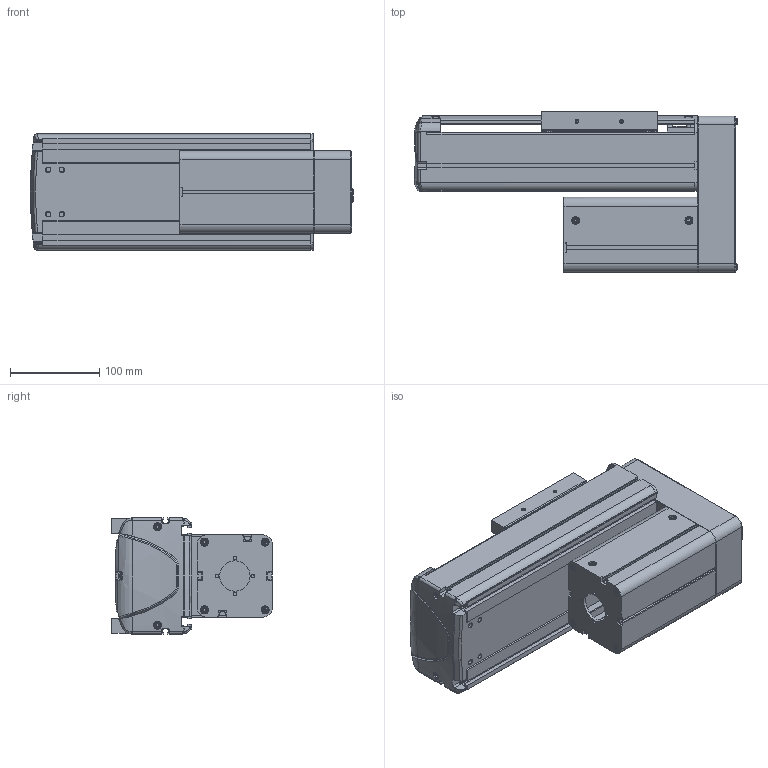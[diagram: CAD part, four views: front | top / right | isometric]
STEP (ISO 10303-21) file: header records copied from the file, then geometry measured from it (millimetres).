
FILE_DESCRIPTION((''),'2;1');
FILE_NAME('BE30E-UU-M_N-10_IGS_PRT','2017-06-17T',(' '),(''),'PRO/ENGINEER BY PARAMETRIC TECHNOLOGY CORPORATION, 2015030','PRO/ENGINEER BY PARAMETRIC TECHNOLOGY CORPORATION, 2015030','');
FILE_SCHEMA(('CONFIG_CONTROL_DESIGN'));
Length unit declared in the file: millimetre
Products named in the file (1): BE30E-UU-M_N-10_IGS_PRT
Bounding box: 361.9 x 180 x 130 mm (x, y, z)
Volume: 1587069.3 mm3; surface area: 729665.9 mm2
Topology: 2 solids, 97 shells, 1930 faces, 5153 edges, 3337 vertices
Faces by surface type: plane 981, cylinder 749, cone 107, torus 39, bspline 30, sphere 24
Entity records: 61953 total; most frequent: CARTESIAN_POINT 12979, DIRECTION 10363, ORIENTED_EDGE 9866, EDGE_CURVE 5115, AXIS2_PLACEMENT_3D 3609, VERTEX_POINT 3337, VECTOR 3145, LINE 3145
